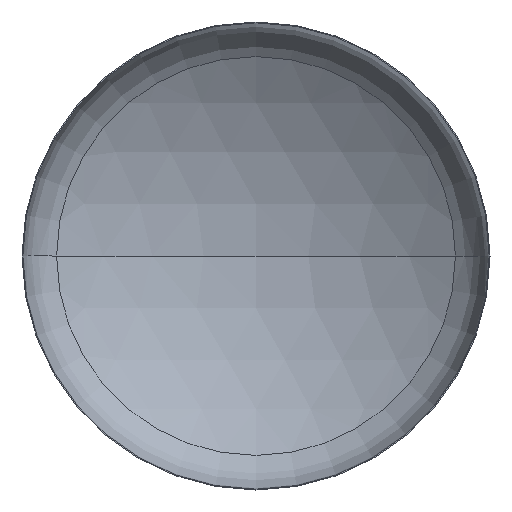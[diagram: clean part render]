
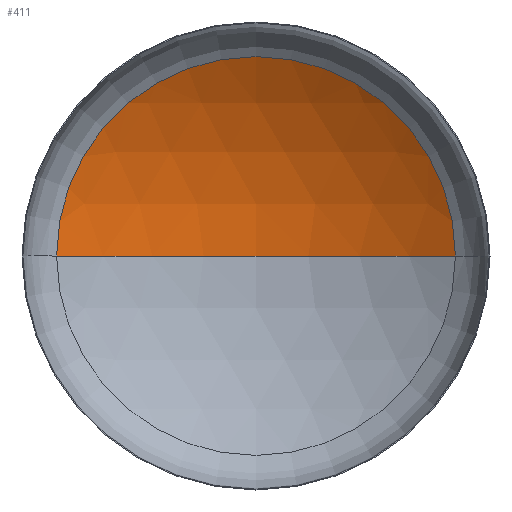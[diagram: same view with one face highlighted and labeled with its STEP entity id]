
A CAD part, front view. The second image highlights one B-rep face of the part: STEP entity #411.
In plain terms, the highlighted spherical face has radius 2720 mm.
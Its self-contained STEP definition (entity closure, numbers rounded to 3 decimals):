
#14 = ORIENTED_EDGE ( 'NONE', *, *, #318, .T. ) ;
#43 = AXIS2_PLACEMENT_3D ( 'NONE', #85, #293, #232 ) ;
#44 = CARTESIAN_POINT ( 'NONE',  ( 0., -1837.812, 0. ) ) ;
#46 = AXIS2_PLACEMENT_3D ( 'NONE', #120, #128, #125 ) ;
#52 = CARTESIAN_POINT ( 'NONE',  ( 0., -1837.812, 0. ) ) ;
#54 = VERTEX_POINT ( 'NONE', #223 ) ;
#70 = DIRECTION ( 'NONE',  ( -1., 0., 0. ) ) ;
#85 = CARTESIAN_POINT ( 'NONE',  ( 0., -1837.812, 0. ) ) ;
#89 = DIRECTION ( 'NONE',  ( 0., 0., -1. ) ) ;
#110 = CIRCLE ( 'NONE', #326, 2720. ) ;
#120 = CARTESIAN_POINT ( 'NONE',  ( 0., 464.351, 0. ) ) ;
#123 = AXIS2_PLACEMENT_3D ( 'NONE', #44, #89, #70 ) ;
#124 = CIRCLE ( 'NONE', #43, 2720. ) ;
#125 = DIRECTION ( 'NONE',  ( 1., 0., 0. ) ) ;
#128 = DIRECTION ( 'NONE',  ( 0., -1., 0. ) ) ;
#154 = DIRECTION ( 'NONE',  ( 1., 0., 0. ) ) ;
#184 = VERTEX_POINT ( 'NONE', #283 ) ;
#191 = CARTESIAN_POINT ( 'NONE',  ( -1448.601, 464.351, 0. ) ) ;
#223 = CARTESIAN_POINT ( 'NONE',  ( 1448.601, 464.351, 0. ) ) ;
#232 = DIRECTION ( 'NONE',  ( -1., 0., 0. ) ) ;
#233 = FACE_OUTER_BOUND ( 'NONE', #272, .T. ) ;
#269 = DIRECTION ( 'NONE',  ( 0., 0., 1. ) ) ;
#272 = EDGE_LOOP ( 'NONE', ( #366, #279, #14 ) ) ;
#279 = ORIENTED_EDGE ( 'NONE', *, *, #329, .T. ) ;
#283 = CARTESIAN_POINT ( 'NONE',  ( 0., 882.188, 0. ) ) ;
#292 = VERTEX_POINT ( 'NONE', #191 ) ;
#293 = DIRECTION ( 'NONE',  ( 0., 0., -1. ) ) ;
#310 = SPHERICAL_SURFACE ( 'NONE', #123, 2720. ) ;
#318 = EDGE_CURVE ( 'NONE', #54, #292, #347, .T. ) ;
#326 = AXIS2_PLACEMENT_3D ( 'NONE', #52, #269, #154 ) ;
#329 = EDGE_CURVE ( 'NONE', #184, #54, #124, .T. ) ;
#347 = CIRCLE ( 'NONE', #46, 1448.601 ) ;
#359 = EDGE_CURVE ( 'NONE', #184, #292, #110, .T. ) ;
#366 = ORIENTED_EDGE ( 'NONE', *, *, #359, .F. ) ;
#411 = ADVANCED_FACE ( 'NONE', ( #233 ), #310, .F. ) ;
